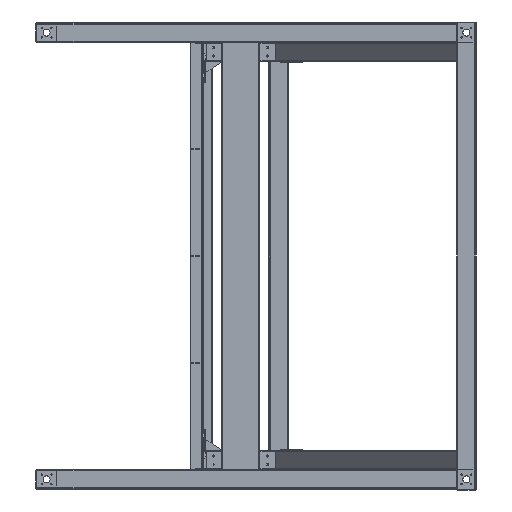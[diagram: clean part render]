
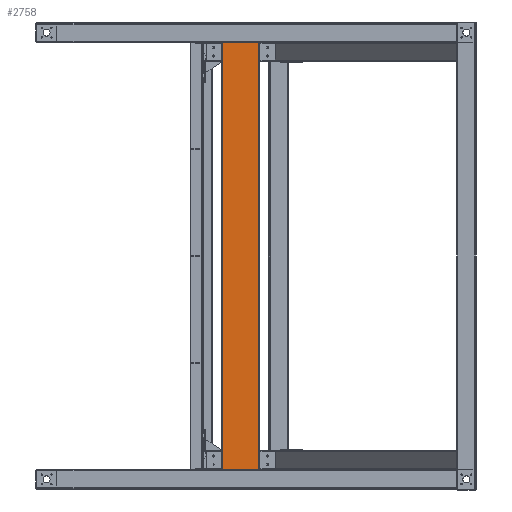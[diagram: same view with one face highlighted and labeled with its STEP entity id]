
A CAD part, front view. The second image highlights one B-rep face of the part: STEP entity #2758.
In plain terms, the highlighted planar face has unit normal (0, -1, 0).
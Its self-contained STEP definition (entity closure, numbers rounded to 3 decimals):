
#1888=PLANE('',#20956);
#2758=ADVANCED_FACE('',(#4176),#1888,.T.);
#4176=FACE_OUTER_BOUND('',#5032,.T.);
#5032=EDGE_LOOP('',(#11098,#11099,#11100,#11101));
#6842=LINE('',#28338,#8840);
#6847=LINE('',#28361,#8845);
#6868=LINE('',#28445,#8866);
#6869=LINE('',#28446,#8867);
#8840=VECTOR('',#22881,1.);
#8845=VECTOR('',#22900,1.);
#8866=VECTOR('',#22941,1.);
#8867=VECTOR('',#22942,1.);
#11098=ORIENTED_EDGE('',*,*,#17962,.T.);
#11099=ORIENTED_EDGE('',*,*,#17994,.T.);
#11100=ORIENTED_EDGE('',*,*,#17952,.T.);
#11101=ORIENTED_EDGE('',*,*,#17995,.T.);
#16066=VERTEX_POINT('',#28339);
#16067=VERTEX_POINT('',#28340);
#16076=VERTEX_POINT('',#28360);
#16077=VERTEX_POINT('',#28362);
#17952=EDGE_CURVE('',#16066,#16067,#6842,.T.);
#17962=EDGE_CURVE('',#16077,#16076,#6847,.T.);
#17994=EDGE_CURVE('',#16076,#16066,#6868,.T.);
#17995=EDGE_CURVE('',#16067,#16077,#6869,.T.);
#20956=AXIS2_PLACEMENT_3D('',#28447,#22943,#22944);
#22881=DIRECTION('',(0.,0.,-1.));
#22900=DIRECTION('',(0.,0.,1.));
#22941=DIRECTION('',(-1.,0.,0.));
#22942=DIRECTION('',(1.,0.,0.));
#22943=DIRECTION('',(0.,-1.,0.));
#22944=DIRECTION('',(0.,0.,1.));
#28338=CARTESIAN_POINT('',(-94.,135.,2310.));
#28339=CARTESIAN_POINT('',(-94.,135.,2110.));
#28340=CARTESIAN_POINT('',(-94.,135.,-110.));
#28360=CARTESIAN_POINT('',(94.,135.,2110.));
#28361=CARTESIAN_POINT('',(94.,135.,2310.));
#28362=CARTESIAN_POINT('',(94.,135.,-110.));
#28445=CARTESIAN_POINT('',(100.,135.,2110.));
#28446=CARTESIAN_POINT('',(100.,135.,-110.));
#28447=CARTESIAN_POINT('',(100.,135.,2310.));
